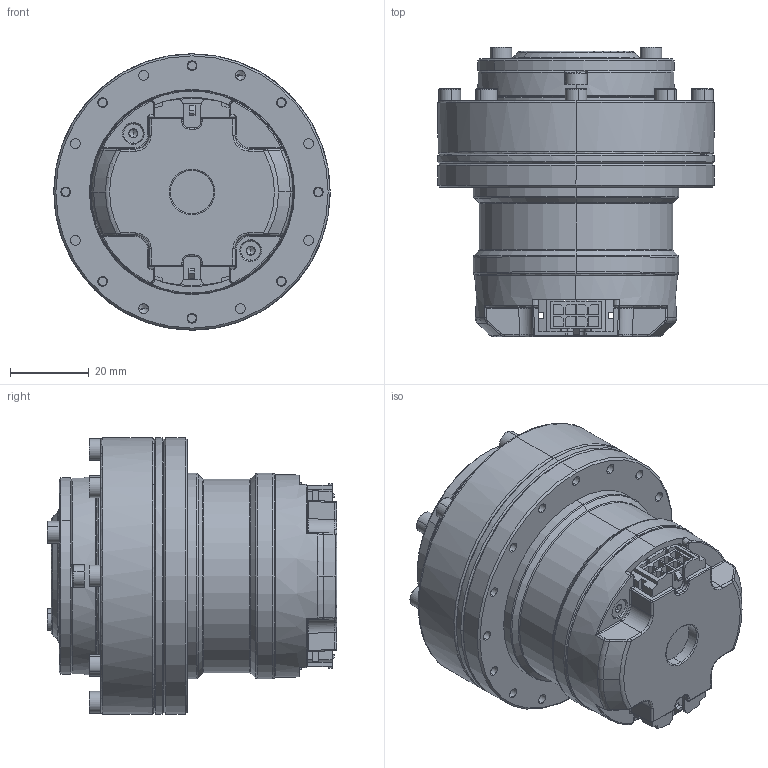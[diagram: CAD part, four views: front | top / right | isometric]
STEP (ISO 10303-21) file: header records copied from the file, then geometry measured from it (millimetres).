
FILE_DESCRIPTION (( 'STEP AP214' ), '1' );
FILE_NAME ('QddPro_3510_31.STEP', '2019-04-24T03:10:08', ( 'Microsoft' ), ( 'Microsoft' ), 'SwSTEP 2.0', 'SolidWorks 2018', '' );
FILE_SCHEMA (( 'AUTOMOTIVE_DESIGN' ));
Length unit declared in the file: millimetre
Products named in the file (1): QddPro_3510_31
Bounding box: 70 x 73.4 x 70 mm (x, y, z)
Volume: 130433 mm3; surface area: 85217.6 mm2
Topology: 119 solids, 119 shells, 2598 faces, 6108 edges, 3780 vertices
Faces by surface type: plane 1360, cylinder 601, cone 388, bspline 152, torus 92, sphere 5
Entity records: 115069 total; most frequent: CARTESIAN_POINT 28238, ORIENTED_EDGE 12092, DIRECTION 10903, EDGE_CURVE 6046, VERTEX_POINT 3780, VECTOR 3655, LINE 3655, AXIS2_PLACEMENT_3D 3624
